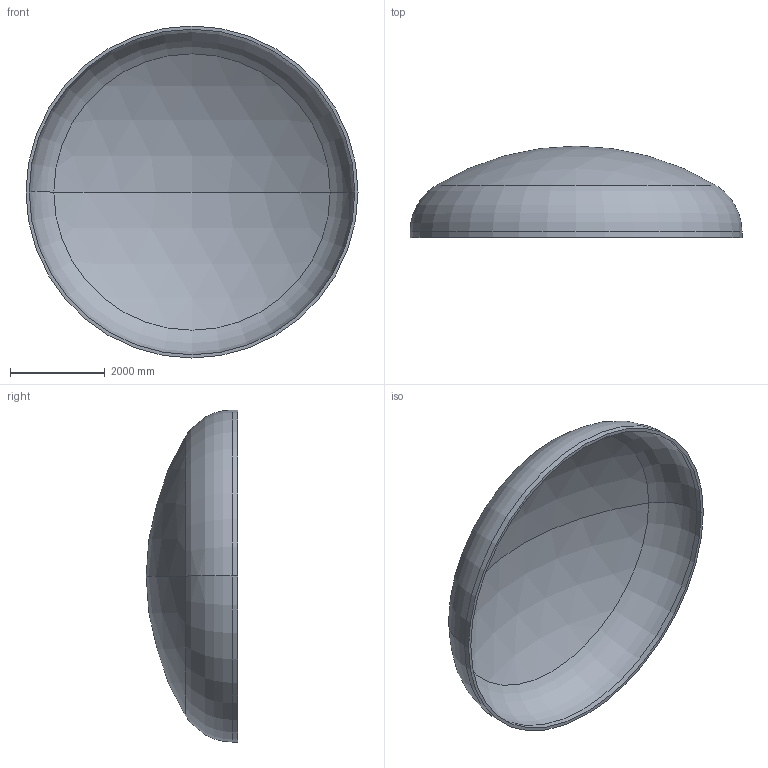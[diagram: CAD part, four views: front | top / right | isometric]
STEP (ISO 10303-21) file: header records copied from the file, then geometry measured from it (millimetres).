
FILE_DESCRIPTION (( 'STEP AP203' ), '1' );
FILE_NAME ('DIN 28013 Korbbogenform_-_Boden DIN 28013 - 7000 x 120 - I - s=68.step', '2016-07-04T10:48:44', ( '' ), ( '' ), 'SwSTEP 2.0', 'SolidWorks 2013', '' );
FILE_SCHEMA (( 'CONFIG_CONTROL_DESIGN' ));
Length unit declared in the file: millimetre
Products named in the file (1): DIN 28013 Korbbogenform_-_Boden DIN 28013 - 7000 x 120 - I - s=68
Bounding box: 7000 x 1928.14 x 7000 mm (x, y, z)
Volume: 3757176604.4 mm3; surface area: 111995707.6 mm2
Topology: 1 solids, 1 shells, 13 faces, 24 edges, 14 vertices
Faces by surface type: torus 4, cylinder 4, sphere 4, plane 1
Entity records: 407 total; most frequent: DIRECTION 72, CARTESIAN_POINT 52, ORIENTED_EDGE 48, AXIS2_PLACEMENT_3D 34, EDGE_CURVE 24, CIRCLE 20, VERTEX_POINT 14, EDGE_LOOP 14
